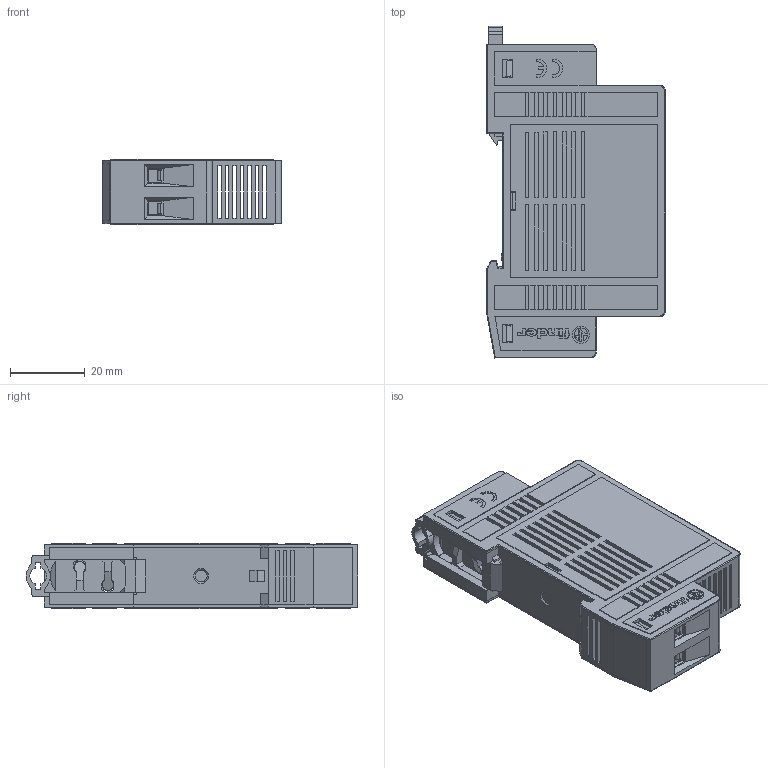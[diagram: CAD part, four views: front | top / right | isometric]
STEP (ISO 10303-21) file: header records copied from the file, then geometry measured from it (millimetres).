
FILE_DESCRIPTION(/* description */ ('Unknown'),/* implementation_level */ '2;1');
FILE_NAME(/* name */ '7T51',/* time_stamp */ '2018-05-16T09:28:03+02:00',/* author */ ('Unknown'),/* organization */ ('Unknown'),/* preprocessor_version */ 'ST-DEVELOPER v16.7',/* originating_system */ 'DEX',/* authorisation */ $);
FILE_SCHEMA (('AUTOMOTIVE_DESIGN {1 0 10303 214 3 1 1}'));
Length unit declared in the file: millimetre
Products named in the file (1): 7T51 singolo
Bounding box: 47.8 x 88.85 x 17.5 mm (x, y, z)
Surface area: 25274.6 mm2 (no closed solid volume)
Topology: 0 solids, 109 shells, 1554 faces, 5029 edges, 3593 vertices
Faces by surface type: plane 1360, cylinder 143, torus 20, cone 17, bspline 14
Full cylindrical faces by diameter (mm): 2.3 x4, 3 x2, 4.566 x2, 4.6 x4, 5 x4
Entity records: 55330 total; most frequent: CARTESIAN_POINT 10843, ORIENTED_EDGE 8489, DIRECTION 8420, EDGE_CURVE 5006, LINE 4492, VECTOR 4492, VERTEX_POINT 3587, AXIS2_PLACEMENT_3D 1964
